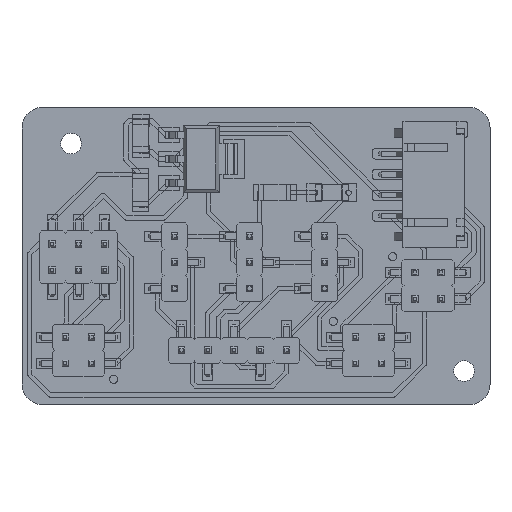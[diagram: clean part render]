
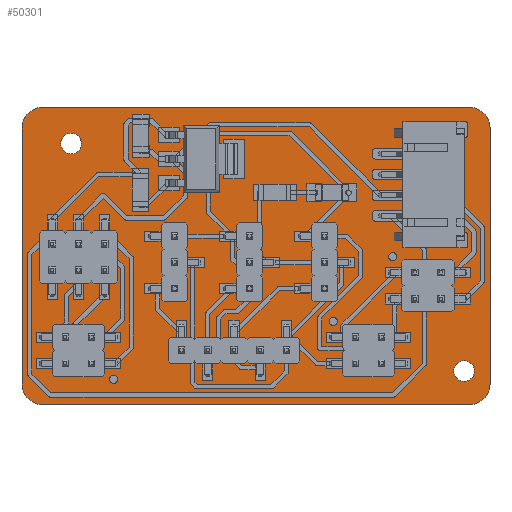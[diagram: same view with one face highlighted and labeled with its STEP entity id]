
A CAD part, top view. The second image highlights one B-rep face of the part: STEP entity #50301.
In plain terms, the highlighted planar face has unit normal (0, 0, 1).
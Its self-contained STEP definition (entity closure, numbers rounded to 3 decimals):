
#49964 = VERTEX_POINT('',#49965);
#49965 = CARTESIAN_POINT('',(185.25,-83.5,1.51));
#49971 = EDGE_CURVE('',#49964,#49972,#49974,.T.);
#49972 = VERTEX_POINT('',#49973);
#49973 = CARTESIAN_POINT('',(187.25,-85.5,1.51));
#49974 = CIRCLE('',#49975,2.);
#49975 = AXIS2_PLACEMENT_3D('',#49976,#49977,#49978);
#49976 = CARTESIAN_POINT('',(185.25,-85.5,1.51));
#49977 = DIRECTION('',(0.,0.,-1.));
#49978 = DIRECTION('',(0.,1.,0.));
#50004 = EDGE_CURVE('',#49972,#50005,#50007,.T.);
#50005 = VERTEX_POINT('',#50006);
#50006 = CARTESIAN_POINT('',(187.25,-110.25,1.51));
#50007 = LINE('',#50008,#50009);
#50008 = CARTESIAN_POINT('',(187.25,-85.5,1.51));
#50009 = VECTOR('',#50010,1.);
#50010 = DIRECTION('',(0.,-1.,0.));
#50035 = EDGE_CURVE('',#50005,#50036,#50038,.T.);
#50036 = VERTEX_POINT('',#50037);
#50037 = CARTESIAN_POINT('',(185.25,-112.25,1.51));
#50038 = CIRCLE('',#50039,2.);
#50039 = AXIS2_PLACEMENT_3D('',#50040,#50041,#50042);
#50040 = CARTESIAN_POINT('',(185.25,-110.25,1.51));
#50041 = DIRECTION('',(0.,0.,-1.));
#50042 = DIRECTION('',(1.,0.,0.));
#50068 = EDGE_CURVE('',#50036,#50069,#50071,.T.);
#50069 = VERTEX_POINT('',#50070);
#50070 = CARTESIAN_POINT('',(144.,-112.25,1.51));
#50071 = LINE('',#50072,#50073);
#50072 = CARTESIAN_POINT('',(185.25,-112.25,1.51));
#50073 = VECTOR('',#50074,1.);
#50074 = DIRECTION('',(-1.,0.,0.));
#50099 = EDGE_CURVE('',#50069,#50100,#50102,.T.);
#50100 = VERTEX_POINT('',#50101);
#50101 = CARTESIAN_POINT('',(142.,-110.25,1.51));
#50102 = CIRCLE('',#50103,2.);
#50103 = AXIS2_PLACEMENT_3D('',#50104,#50105,#50106);
#50104 = CARTESIAN_POINT('',(144.,-110.25,1.51));
#50105 = DIRECTION('',(0.,0.,-1.));
#50106 = DIRECTION('',(0.,-1.,0.));
#50132 = EDGE_CURVE('',#50100,#50133,#50135,.T.);
#50133 = VERTEX_POINT('',#50134);
#50134 = CARTESIAN_POINT('',(142.,-85.5,1.51));
#50135 = LINE('',#50136,#50137);
#50136 = CARTESIAN_POINT('',(142.,-110.25,1.51));
#50137 = VECTOR('',#50138,1.);
#50138 = DIRECTION('',(0.,1.,0.));
#50163 = EDGE_CURVE('',#50133,#50164,#50166,.T.);
#50164 = VERTEX_POINT('',#50165);
#50165 = CARTESIAN_POINT('',(144.,-83.5,1.51));
#50166 = CIRCLE('',#50167,2.);
#50167 = AXIS2_PLACEMENT_3D('',#50168,#50169,#50170);
#50168 = CARTESIAN_POINT('',(144.,-85.5,1.51));
#50169 = DIRECTION('',(0.,0.,-1.));
#50170 = DIRECTION('',(-1.,0.,-0.));
#50196 = EDGE_CURVE('',#50164,#49964,#50197,.T.);
#50197 = LINE('',#50198,#50199);
#50198 = CARTESIAN_POINT('',(144.,-83.5,1.51));
#50199 = VECTOR('',#50200,1.);
#50200 = DIRECTION('',(1.,0.,0.));
#50220 = VERTEX_POINT('',#50221);
#50221 = CARTESIAN_POINT('',(185.75,-109.,1.51));
#50227 = EDGE_CURVE('',#50220,#50220,#50228,.T.);
#50228 = CIRCLE('',#50229,1.);
#50229 = AXIS2_PLACEMENT_3D('',#50230,#50231,#50232);
#50230 = CARTESIAN_POINT('',(184.75,-109.,1.51));
#50231 = DIRECTION('',(0.,0.,1.));
#50232 = DIRECTION('',(1.,0.,-0.));
#50253 = VERTEX_POINT('',#50254);
#50254 = CARTESIAN_POINT('',(147.75,-87.,1.51));
#50260 = EDGE_CURVE('',#50253,#50253,#50261,.T.);
#50261 = CIRCLE('',#50262,1.);
#50262 = AXIS2_PLACEMENT_3D('',#50263,#50264,#50265);
#50263 = CARTESIAN_POINT('',(146.75,-87.,1.51));
#50264 = DIRECTION('',(0.,0.,1.));
#50265 = DIRECTION('',(1.,0.,-0.));
#50301 = ADVANCED_FACE('',(#50302,#50312,#50315),#50318,.T.);
#50302 = FACE_BOUND('',#50303,.F.);
#50303 = EDGE_LOOP('',(#50304,#50305,#50306,#50307,#50308,#50309,#50310,
    #50311));
#50304 = ORIENTED_EDGE('',*,*,#49971,.T.);
#50305 = ORIENTED_EDGE('',*,*,#50004,.T.);
#50306 = ORIENTED_EDGE('',*,*,#50035,.T.);
#50307 = ORIENTED_EDGE('',*,*,#50068,.T.);
#50308 = ORIENTED_EDGE('',*,*,#50099,.T.);
#50309 = ORIENTED_EDGE('',*,*,#50132,.T.);
#50310 = ORIENTED_EDGE('',*,*,#50163,.T.);
#50311 = ORIENTED_EDGE('',*,*,#50196,.T.);
#50312 = FACE_BOUND('',#50313,.F.);
#50313 = EDGE_LOOP('',(#50314));
#50314 = ORIENTED_EDGE('',*,*,#50227,.T.);
#50315 = FACE_BOUND('',#50316,.F.);
#50316 = EDGE_LOOP('',(#50317));
#50317 = ORIENTED_EDGE('',*,*,#50260,.T.);
#50318 = PLANE('',#50319);
#50319 = AXIS2_PLACEMENT_3D('',#50320,#50321,#50322);
#50320 = CARTESIAN_POINT('',(0.,0.,1.51));
#50321 = DIRECTION('',(0.,0.,1.));
#50322 = DIRECTION('',(1.,0.,-0.));
